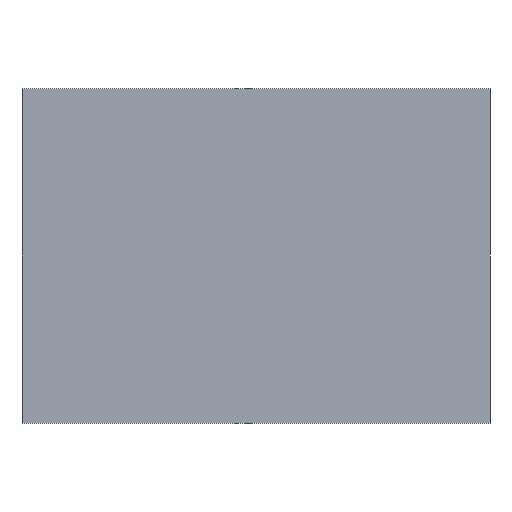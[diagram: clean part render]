
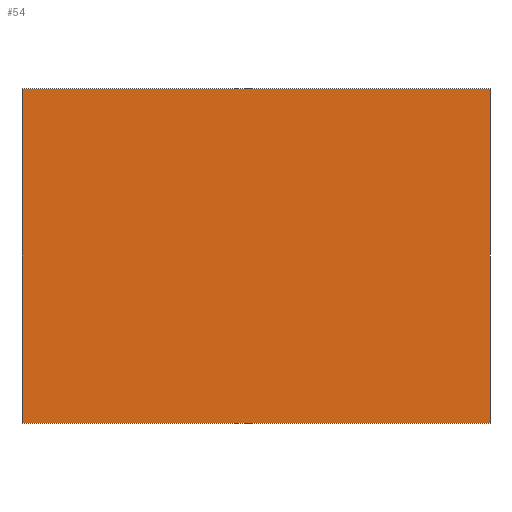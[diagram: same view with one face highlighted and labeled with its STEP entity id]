
A CAD part, front view. The second image highlights one B-rep face of the part: STEP entity #54.
In plain terms, the highlighted planar face has unit normal (0, -1, 0).
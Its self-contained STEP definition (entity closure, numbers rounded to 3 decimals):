
#54=ADVANCED_FACE('',(#65),#66,.F.);
#65=FACE_OUTER_BOUND('',#78,.T.);
#66=PLANE('',#79);
#78=EDGE_LOOP('',(#106,#107,#108,#109));
#79=AXIS2_PLACEMENT_3D('',#110,#111,#112);
#106=ORIENTED_EDGE('',*,*,#138,.F.);
#107=ORIENTED_EDGE('',*,*,#132,.F.);
#108=ORIENTED_EDGE('',*,*,#139,.F.);
#109=ORIENTED_EDGE('',*,*,#128,.F.);
#110=CARTESIAN_POINT('',(62.5,-87.626,-9.563));
#111=DIRECTION('',(0.,1.0,0.));
#112=DIRECTION('',(1.0,0.,0.));
#128=EDGE_CURVE('',#140,#141,#142,.T.);
#132=EDGE_CURVE('',#148,#149,#150,.T.);
#138=EDGE_CURVE('',#149,#140,#158,.T.);
#139=EDGE_CURVE('',#141,#148,#159,.T.);
#140=VERTEX_POINT('',#160);
#141=VERTEX_POINT('',#161);
#142=LINE('',#162,#163);
#148=VERTEX_POINT('',#172);
#149=VERTEX_POINT('',#173);
#150=LINE('',#174,#175);
#158=LINE('',#188,#189);
#159=LINE('',#190,#191);
#160=CARTESIAN_POINT('',(59.,-87.626,-12.063));
#161=CARTESIAN_POINT('',(59.,-87.626,-7.063));
#162=CARTESIAN_POINT('',(59.,-87.626,-7.063));
#163=VECTOR('',#192,1.0);
#172=CARTESIAN_POINT('',(66.,-87.626,-7.063));
#173=CARTESIAN_POINT('',(66.,-87.626,-12.063));
#174=CARTESIAN_POINT('',(66.,-87.626,-12.063));
#175=VECTOR('',#196,1.0);
#188=CARTESIAN_POINT('',(59.,-87.626,-12.063));
#189=VECTOR('',#202,1.0);
#190=CARTESIAN_POINT('',(66.,-87.626,-7.063));
#191=VECTOR('',#203,1.0);
#192=DIRECTION('',(0.,0.,1.0));
#196=DIRECTION('',(0.,0.,-1.0));
#202=DIRECTION('',(-1.0,0.,0.));
#203=DIRECTION('',(1.0,0.,0.));
